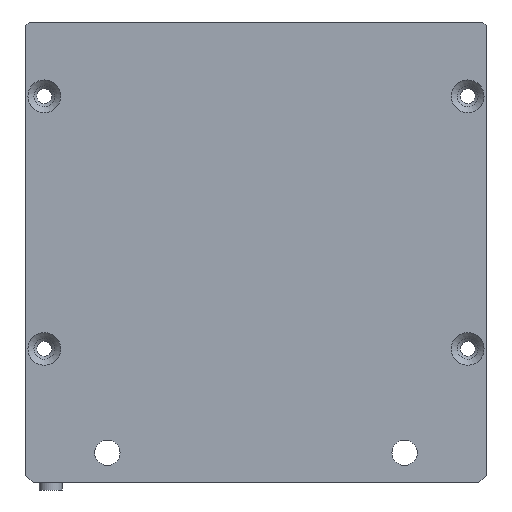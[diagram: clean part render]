
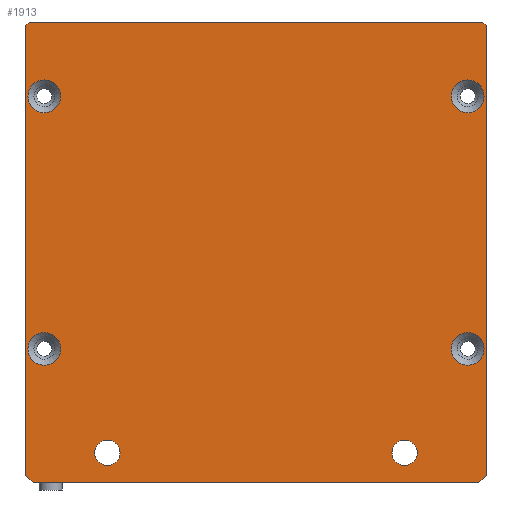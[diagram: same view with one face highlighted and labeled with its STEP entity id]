
A CAD part, front view. The second image highlights one B-rep face of the part: STEP entity #1913.
In plain terms, the highlighted planar face has unit normal (0, -1, 0).
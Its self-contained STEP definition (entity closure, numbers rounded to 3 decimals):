
#23=FACE_BOUND('',#370,.T.);
#24=FACE_BOUND('',#371,.T.);
#25=FACE_BOUND('',#372,.T.);
#26=FACE_BOUND('',#373,.T.);
#27=FACE_BOUND('',#374,.T.);
#28=FACE_BOUND('',#375,.T.);
#185=PLANE('',#2107);
#267=FACE_OUTER_BOUND('',#369,.T.);
#369=EDGE_LOOP('',(#1699,#1700,#1701,#1702,#1703,#1704,#1705,#1706));
#370=EDGE_LOOP('',(#1707,#1708));
#371=EDGE_LOOP('',(#1709,#1710));
#372=EDGE_LOOP('',(#1711,#1712));
#373=EDGE_LOOP('',(#1713,#1714));
#374=EDGE_LOOP('',(#1715,#1716));
#375=EDGE_LOOP('',(#1717,#1718));
#525=LINE('',#3134,#684);
#529=LINE('',#3143,#688);
#533=LINE('',#3152,#692);
#536=LINE('',#3158,#695);
#544=LINE('',#3178,#703);
#545=LINE('',#3179,#704);
#546=LINE('',#3180,#705);
#547=LINE('',#3181,#706);
#684=VECTOR('',#2573,1000.);
#688=VECTOR('',#2579,1000.);
#692=VECTOR('',#2585,1000.);
#695=VECTOR('',#2590,1000.);
#703=VECTOR('',#2610,1000.);
#704=VECTOR('',#2611,1000.);
#705=VECTOR('',#2612,1000.);
#706=VECTOR('',#2613,1000.);
#798=CIRCLE('',#2108,1.7);
#799=CIRCLE('',#2109,1.7);
#800=CIRCLE('',#2110,1.7);
#801=CIRCLE('',#2111,1.7);
#802=CIRCLE('',#2112,2.2);
#803=CIRCLE('',#2113,2.2);
#804=CIRCLE('',#2114,2.2);
#805=CIRCLE('',#2115,2.2);
#806=CIRCLE('',#2116,2.2);
#807=CIRCLE('',#2117,2.2);
#808=CIRCLE('',#2118,2.2);
#809=CIRCLE('',#2119,2.2);
#968=VERTEX_POINT('',#3132);
#969=VERTEX_POINT('',#3133);
#972=VERTEX_POINT('',#3141);
#973=VERTEX_POINT('',#3142);
#976=VERTEX_POINT('',#3150);
#977=VERTEX_POINT('',#3151);
#978=VERTEX_POINT('',#3156);
#979=VERTEX_POINT('',#3157);
#986=VERTEX_POINT('',#3182);
#987=VERTEX_POINT('',#3183);
#988=VERTEX_POINT('',#3186);
#989=VERTEX_POINT('',#3187);
#990=VERTEX_POINT('',#3190);
#991=VERTEX_POINT('',#3191);
#992=VERTEX_POINT('',#3194);
#993=VERTEX_POINT('',#3195);
#994=VERTEX_POINT('',#3198);
#995=VERTEX_POINT('',#3199);
#996=VERTEX_POINT('',#3202);
#997=VERTEX_POINT('',#3203);
#1217=EDGE_CURVE('',#968,#969,#525,.T.);
#1221=EDGE_CURVE('',#972,#973,#529,.T.);
#1225=EDGE_CURVE('',#976,#977,#533,.T.);
#1228=EDGE_CURVE('',#978,#979,#536,.T.);
#1240=EDGE_CURVE('',#969,#972,#544,.T.);
#1241=EDGE_CURVE('',#973,#976,#545,.T.);
#1242=EDGE_CURVE('',#977,#978,#546,.T.);
#1243=EDGE_CURVE('',#979,#968,#547,.T.);
#1244=EDGE_CURVE('',#986,#987,#798,.T.);
#1245=EDGE_CURVE('',#987,#986,#799,.T.);
#1246=EDGE_CURVE('',#988,#989,#800,.T.);
#1247=EDGE_CURVE('',#989,#988,#801,.T.);
#1248=EDGE_CURVE('',#990,#991,#802,.T.);
#1249=EDGE_CURVE('',#991,#990,#803,.T.);
#1250=EDGE_CURVE('',#992,#993,#804,.T.);
#1251=EDGE_CURVE('',#993,#992,#805,.T.);
#1252=EDGE_CURVE('',#994,#995,#806,.T.);
#1253=EDGE_CURVE('',#995,#994,#807,.T.);
#1254=EDGE_CURVE('',#996,#997,#808,.T.);
#1255=EDGE_CURVE('',#997,#996,#809,.T.);
#1699=ORIENTED_EDGE('',*,*,#1240,.T.);
#1700=ORIENTED_EDGE('',*,*,#1221,.T.);
#1701=ORIENTED_EDGE('',*,*,#1241,.T.);
#1702=ORIENTED_EDGE('',*,*,#1225,.T.);
#1703=ORIENTED_EDGE('',*,*,#1242,.T.);
#1704=ORIENTED_EDGE('',*,*,#1228,.T.);
#1705=ORIENTED_EDGE('',*,*,#1243,.T.);
#1706=ORIENTED_EDGE('',*,*,#1217,.T.);
#1707=ORIENTED_EDGE('',*,*,#1244,.F.);
#1708=ORIENTED_EDGE('',*,*,#1245,.F.);
#1709=ORIENTED_EDGE('',*,*,#1246,.F.);
#1710=ORIENTED_EDGE('',*,*,#1247,.F.);
#1711=ORIENTED_EDGE('',*,*,#1248,.F.);
#1712=ORIENTED_EDGE('',*,*,#1249,.F.);
#1713=ORIENTED_EDGE('',*,*,#1250,.F.);
#1714=ORIENTED_EDGE('',*,*,#1251,.F.);
#1715=ORIENTED_EDGE('',*,*,#1252,.F.);
#1716=ORIENTED_EDGE('',*,*,#1253,.F.);
#1717=ORIENTED_EDGE('',*,*,#1254,.F.);
#1718=ORIENTED_EDGE('',*,*,#1255,.F.);
#1913=ADVANCED_FACE('',(#267,#23,#24,#25,#26,#27,#28),#185,.T.);
#2107=AXIS2_PLACEMENT_3D('',#3177,#2608,#2609);
#2108=AXIS2_PLACEMENT_3D('',#3184,#2614,#2615);
#2109=AXIS2_PLACEMENT_3D('',#3185,#2616,#2617);
#2110=AXIS2_PLACEMENT_3D('',#3188,#2618,#2619);
#2111=AXIS2_PLACEMENT_3D('',#3189,#2620,#2621);
#2112=AXIS2_PLACEMENT_3D('',#3192,#2622,#2623);
#2113=AXIS2_PLACEMENT_3D('',#3193,#2624,#2625);
#2114=AXIS2_PLACEMENT_3D('',#3196,#2626,#2627);
#2115=AXIS2_PLACEMENT_3D('',#3197,#2628,#2629);
#2116=AXIS2_PLACEMENT_3D('',#3200,#2630,#2631);
#2117=AXIS2_PLACEMENT_3D('',#3201,#2632,#2633);
#2118=AXIS2_PLACEMENT_3D('',#3204,#2634,#2635);
#2119=AXIS2_PLACEMENT_3D('',#3205,#2636,#2637);
#2573=DIRECTION('',(0.707,0.,-0.707));
#2579=DIRECTION('',(0.707,0.,0.707));
#2585=DIRECTION('',(-0.707,0.,0.707));
#2590=DIRECTION('',(-0.707,0.,-0.707));
#2608=DIRECTION('center_axis',(0.,-1.,0.));
#2609=DIRECTION('ref_axis',(0.,0.,
1.));
#2610=DIRECTION('',(1.,0.,0.));
#2611=DIRECTION('',(0.,0.,1.));
#2612=DIRECTION('',(-1.,0.,0.));
#2613=DIRECTION('',(0.,0.,-1.));
#2614=DIRECTION('center_axis',(0.,-1.,0.));
#2615=DIRECTION('ref_axis',(0.,0.,
1.));
#2616=DIRECTION('center_axis',(0.,-1.,0.));
#2617=DIRECTION('ref_axis',(0.,0.,
1.));
#2618=DIRECTION('center_axis',(0.,-1.,0.));
#2619=DIRECTION('ref_axis',(0.,0.,
1.));
#2620=DIRECTION('center_axis',(0.,-1.,0.));
#2621=DIRECTION('ref_axis',(0.,0.,
1.));
#2622=DIRECTION('center_axis',(0.,-1.,0.));
#2623=DIRECTION('ref_axis',(0.,0.,
1.));
#2624=DIRECTION('center_axis',(0.,-1.,0.));
#2625=DIRECTION('ref_axis',(0.,0.,
1.));
#2626=DIRECTION('center_axis',(0.,-1.,0.));
#2627=DIRECTION('ref_axis',(0.,0.,
1.));
#2628=DIRECTION('center_axis',(0.,-1.,0.));
#2629=DIRECTION('ref_axis',(0.,0.,
1.));
#2630=DIRECTION('center_axis',(0.,-1.,0.));
#2631=DIRECTION('ref_axis',(0.,0.,
1.));
#2632=DIRECTION('center_axis',(0.,-1.,0.));
#2633=DIRECTION('ref_axis',(0.,0.,
1.));
#2634=DIRECTION('center_axis',(0.,-1.,0.));
#2635=DIRECTION('ref_axis',(0.,0.,
1.));
#2636=DIRECTION('center_axis',(0.,-1.,0.));
#2637=DIRECTION('ref_axis',(0.,0.,
1.));
#3132=CARTESIAN_POINT('',(0.,0.,-61.));
#3133=CARTESIAN_POINT('',(1.,0.,-62.));
#3134=CARTESIAN_POINT('',(0.5,0.,-61.5));
#3141=CARTESIAN_POINT('',(61.,0.,-62.));
#3142=CARTESIAN_POINT('',(62.,0.,-61.));
#3143=CARTESIAN_POINT('',(92.5,0.,-30.5));
#3150=CARTESIAN_POINT('',(62.,0.,-0.5));
#3151=CARTESIAN_POINT('',(61.5,0.,0.));
#3152=CARTESIAN_POINT('',(61.75,0.,-0.25));
#3156=CARTESIAN_POINT('',(0.5,0.,0.));
#3157=CARTESIAN_POINT('',(0.,0.,-0.5));
#3158=CARTESIAN_POINT('',(31.25,0.,30.75));
#3177=CARTESIAN_POINT('Origin',(62.,0.,0.));
#3178=CARTESIAN_POINT('',(62.,0.,-62.));
#3179=CARTESIAN_POINT('',(62.,0.,-62.));
#3180=CARTESIAN_POINT('',(62.,0.,0.));
#3181=CARTESIAN_POINT('',(0.,0.,-62.));
#3182=CARTESIAN_POINT('',(51.,0.,-56.3));
#3183=CARTESIAN_POINT('',(51.,0.,-59.7));
#3184=CARTESIAN_POINT('Origin',(51.,0.,-58.));
#3185=CARTESIAN_POINT('Origin',(51.,0.,-58.));
#3186=CARTESIAN_POINT('',(11.,0.,-56.3));
#3187=CARTESIAN_POINT('',(11.,0.,-59.7));
#3188=CARTESIAN_POINT('Origin',(11.,0.,-58.));
#3189=CARTESIAN_POINT('Origin',(11.,0.,-58.));
#3190=CARTESIAN_POINT('',(59.5,0.,-7.8));
#3191=CARTESIAN_POINT('',(59.5,0.,-12.2));
#3192=CARTESIAN_POINT('Origin',(59.5,0.,-10.));
#3193=CARTESIAN_POINT('Origin',(59.5,0.,-10.));
#3194=CARTESIAN_POINT('',(59.5,0.,-41.8));
#3195=CARTESIAN_POINT('',(59.5,0.,-46.2));
#3196=CARTESIAN_POINT('Origin',(59.5,0.,-44.));
#3197=CARTESIAN_POINT('Origin',(59.5,0.,-44.));
#3198=CARTESIAN_POINT('',(2.5,0.,-41.8));
#3199=CARTESIAN_POINT('',(2.5,0.,-46.2));
#3200=CARTESIAN_POINT('Origin',(2.5,0.,-44.));
#3201=CARTESIAN_POINT('Origin',(2.5,0.,-44.));
#3202=CARTESIAN_POINT('',(2.5,0.,-7.8));
#3203=CARTESIAN_POINT('',(2.5,0.,-12.2));
#3204=CARTESIAN_POINT('Origin',(2.5,0.,-10.));
#3205=CARTESIAN_POINT('Origin',(2.5,0.,-10.));
